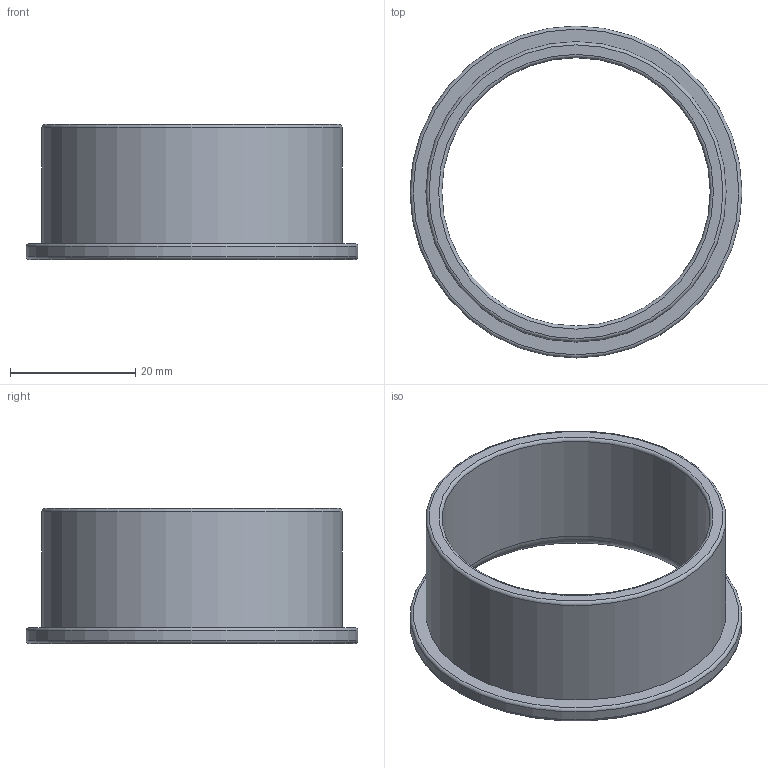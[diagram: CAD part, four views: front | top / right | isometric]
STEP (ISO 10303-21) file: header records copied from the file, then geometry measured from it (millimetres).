
FILE_DESCRIPTION(/* description */ ('Unknown'),/* implementation_level */ '2;1');
FILE_NAME(/* name */ 'heat diffuser duct',/* time_stamp */ '2025-01-24T16:03:10-06:00',/* author */ ('Unknown'),/* organization */ ('Unknown'),/* preprocessor_version */ 'ST-DEVELOPER v19.4',/* originating_system */ 'Solid Edge',/* authorisation */ 'Unknown');
FILE_SCHEMA (('AUTOMOTIVE_DESIGN {1 0 10303 214 3 1 1}'));
Length unit declared in the file: millimetre
Products named in the file (1): heat diffuser duct
Bounding box: 53.09 x 53.09 x 21.59 mm (x, y, z)
Volume: 8631.5 mm3; surface area: 7461.1 mm2
Topology: 1 solids, 1 shells, 11 faces, 20 edges, 12 vertices
Faces by surface type: torus 5, cylinder 3, plane 3
Full cylindrical faces by diameter (mm): 42.926 x1, 48.006 x1, 53.086 x1
Entity records: 258 total; most frequent: DIRECTION 46, CARTESIAN_POINT 34, AXIS2_PLACEMENT_3D 23, ORIENTED_EDGE 22, EDGE_LOOP 22, FACE_BOUND 22, EDGE_CURVE 11, VERTEX_POINT 11
